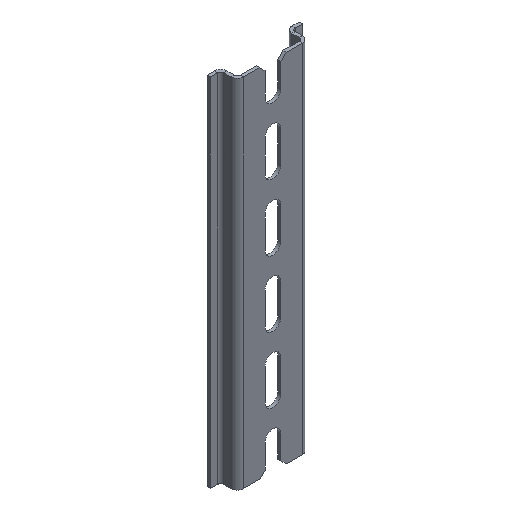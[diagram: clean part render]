
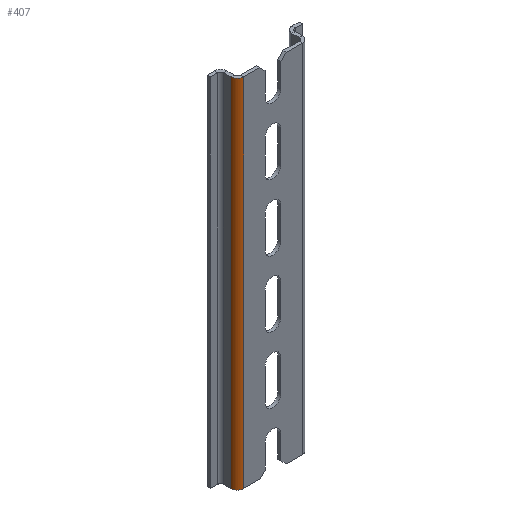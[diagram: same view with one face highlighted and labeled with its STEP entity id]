
A CAD part, isometric view. The second image highlights one B-rep face of the part: STEP entity #407.
In plain terms, the highlighted cylindrical face has radius 2.4 mm (diameter 4.8 mm), a partial arc.
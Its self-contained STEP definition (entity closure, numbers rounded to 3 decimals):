
#47 = DIRECTION ( 'NONE',  ( 0., 0., -1. ) ) ;
#118 = DIRECTION ( 'NONE',  ( -1., 0., 0. ) ) ;
#120 = DIRECTION ( 'NONE',  ( 0., 0., -1. ) ) ;
#134 = ORIENTED_EDGE ( 'NONE', *, *, #406, .T. ) ;
#137 = CARTESIAN_POINT ( 'NONE',  ( -11.1, 2.4, 67.5 ) ) ;
#148 = AXIS2_PLACEMENT_3D ( 'NONE', #2045, #608, #435 ) ;
#156 = DIRECTION ( 'NONE',  ( 0., 0., -1. ) ) ;
#205 = ORIENTED_EDGE ( 'NONE', *, *, #1317, .F. ) ;
#307 = CYLINDRICAL_SURFACE ( 'NONE', #1090, 2.4 ) ;
#363 = VERTEX_POINT ( 'NONE', #1741 ) ;
#406 = EDGE_CURVE ( 'NONE', #363, #1745, #1044, .T. ) ;
#407 = ADVANCED_FACE ( 'NONE', ( #1194 ), #307, .T. ) ;
#435 = DIRECTION ( 'NONE',  ( 1., 0., 0. ) ) ;
#542 = EDGE_CURVE ( 'NONE', #945, #1745, #936, .T. ) ;
#608 = DIRECTION ( 'NONE',  ( 0., 0., -1. ) ) ;
#706 = VERTEX_POINT ( 'NONE', #1690 ) ;
#753 = CARTESIAN_POINT ( 'NONE',  ( -13.5, 2.4, -67.5 ) ) ;
#878 = CARTESIAN_POINT ( 'NONE',  ( -11.1, 0., 67.5 ) ) ;
#936 = CIRCLE ( 'NONE', #1767, 2.4 ) ;
#937 = DIRECTION ( 'NONE',  ( 0., 0., -1. ) ) ;
#945 = VERTEX_POINT ( 'NONE', #1765 ) ;
#972 = LINE ( 'NONE', #878, #1382 ) ;
#1044 = LINE ( 'NONE', #1101, #1289 ) ;
#1090 = AXIS2_PLACEMENT_3D ( 'NONE', #137, #937, #118 ) ;
#1101 = CARTESIAN_POINT ( 'NONE',  ( -13.5, 2.4, 67.5 ) ) ;
#1109 = ORIENTED_EDGE ( 'NONE', *, *, #542, .F. ) ;
#1194 = FACE_OUTER_BOUND ( 'NONE', #1781, .T. ) ;
#1289 = VECTOR ( 'NONE', #120, 1000. ) ;
#1317 = EDGE_CURVE ( 'NONE', #706, #945, #972, .T. ) ;
#1382 = VECTOR ( 'NONE', #47, 1000. ) ;
#1522 = CIRCLE ( 'NONE', #148, 2.4 ) ;
#1604 = DIRECTION ( 'NONE',  ( 1., 0., 0. ) ) ;
#1635 = CARTESIAN_POINT ( 'NONE',  ( -11.1, 2.4, -67.5 ) ) ;
#1690 = CARTESIAN_POINT ( 'NONE',  ( -11.1, 0., 67.5 ) ) ;
#1741 = CARTESIAN_POINT ( 'NONE',  ( -13.5, 2.4, 67.5 ) ) ;
#1745 = VERTEX_POINT ( 'NONE', #753 ) ;
#1765 = CARTESIAN_POINT ( 'NONE',  ( -11.1, 0., -67.5 ) ) ;
#1767 = AXIS2_PLACEMENT_3D ( 'NONE', #1635, #156, #1604 ) ;
#1781 = EDGE_LOOP ( 'NONE', ( #1109, #205, #1987, #134 ) ) ;
#1946 = EDGE_CURVE ( 'NONE', #706, #363, #1522, .T. ) ;
#1987 = ORIENTED_EDGE ( 'NONE', *, *, #1946, .T. ) ;
#2045 = CARTESIAN_POINT ( 'NONE',  ( -11.1, 2.4, 67.5 ) ) ;
